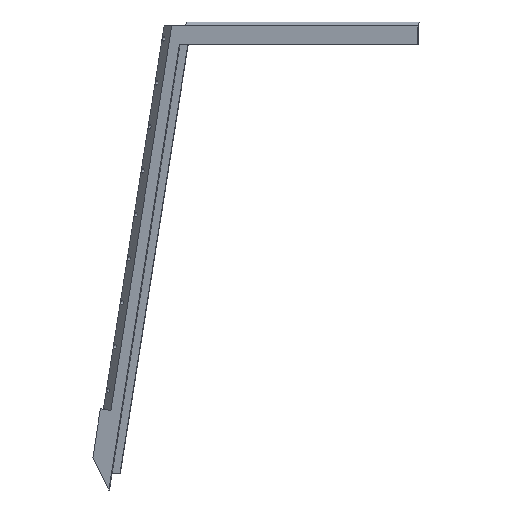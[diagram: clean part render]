
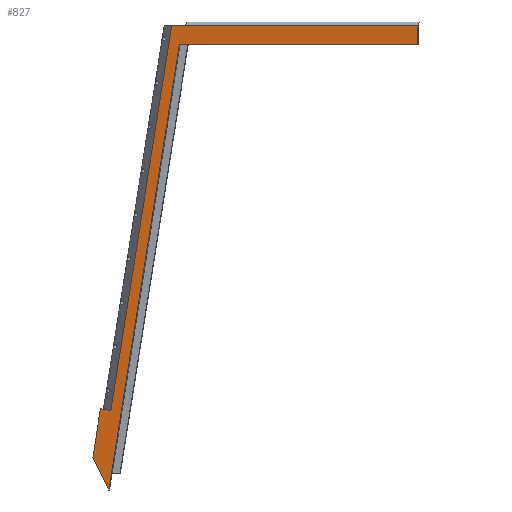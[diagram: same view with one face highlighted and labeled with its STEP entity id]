
A CAD part, left-side view. The second image highlights one B-rep face of the part: STEP entity #827.
In plain terms, the highlighted planar face has unit normal (-0.985, 0.174, 0).
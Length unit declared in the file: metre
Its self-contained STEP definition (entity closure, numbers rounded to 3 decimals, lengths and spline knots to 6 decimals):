
#59=ELLIPSE('',#887,0.002031,0.002);
#77=ORIENTED_EDGE('',*,*,#311,.T.);
#78=ORIENTED_EDGE('',*,*,#312,.T.);
#79=ORIENTED_EDGE('',*,*,#313,.T.);
#80=ORIENTED_EDGE('',*,*,#314,.F.);
#81=ORIENTED_EDGE('',*,*,#315,.T.);
#82=ORIENTED_EDGE('',*,*,#316,.F.);
#83=ORIENTED_EDGE('',*,*,#317,.F.);
#84=ORIENTED_EDGE('',*,*,#318,.T.);
#85=ORIENTED_EDGE('',*,*,#319,.F.);
#86=ORIENTED_EDGE('',*,*,#320,.F.);
#87=ORIENTED_EDGE('',*,*,#321,.T.);
#311=EDGE_CURVE('',#428,#429,#510,.T.);
#312=EDGE_CURVE('',#429,#430,#511,.T.);
#313=EDGE_CURVE('',#430,#431,#512,.T.);
#314=EDGE_CURVE('',#432,#431,#513,.T.);
#315=EDGE_CURVE('',#432,#433,#514,.F.);
#316=EDGE_CURVE('',#434,#433,#59,.F.);
#317=EDGE_CURVE('',#435,#434,#515,.T.);
#318=EDGE_CURVE('',#435,#436,#516,.T.);
#319=EDGE_CURVE('',#437,#436,#517,.T.);
#320=EDGE_CURVE('',#438,#437,#518,.T.);
#321=EDGE_CURVE('',#438,#428,#519,.T.);
#428=VERTEX_POINT('',#1213);
#429=VERTEX_POINT('',#1214);
#430=VERTEX_POINT('',#1216);
#431=VERTEX_POINT('',#1218);
#432=VERTEX_POINT('',#1220);
#433=VERTEX_POINT('',#1222);
#434=VERTEX_POINT('',#1224);
#435=VERTEX_POINT('',#1226);
#436=VERTEX_POINT('',#1228);
#437=VERTEX_POINT('',#1230);
#438=VERTEX_POINT('',#1232);
#510=LINE('',#1212,#583);
#511=LINE('',#1215,#584);
#512=LINE('',#1217,#585);
#513=LINE('',#1219,#586);
#514=LINE('',#1221,#587);
#515=LINE('',#1225,#588);
#516=LINE('',#1227,#589);
#517=LINE('',#1229,#590);
#518=LINE('',#1231,#591);
#519=LINE('',#1233,#592);
#583=VECTOR('',#973,1.);
#584=VECTOR('',#974,1.);
#585=VECTOR('',#975,1.);
#586=VECTOR('',#976,1.);
#587=VECTOR('',#977,1.);
#588=VECTOR('',#980,1.);
#589=VECTOR('',#981,1.);
#590=VECTOR('',#982,1.);
#591=VECTOR('',#983,1.);
#592=VECTOR('',#984,1.);
#656=EDGE_LOOP('',(#77,#78,#79,#80,#81,#82,#83,#84,#85,#86,#87));
#729=FACE_BOUND('',#656,.T.);
#802=PLANE('',#886);
#827=ADVANCED_FACE('',(#729),#802,.T.);
#886=AXIS2_PLACEMENT_3D('',#1211,#971,#972);
#887=AXIS2_PLACEMENT_3D('',#1223,#978,#979);
#971=DIRECTION('',(-0.985,0.174,0.));
#972=DIRECTION('',(0.174,0.985,0.));
#973=DIRECTION('',(-0.028,-0.156,0.987));
#974=DIRECTION('',(-0.174,-0.985,0.));
#975=DIRECTION('',(0.,0.,1.));
#976=DIRECTION('',(0.028,0.156,-0.987));
#977=DIRECTION('',(-0.174,-0.985,0.));
#978=DIRECTION('',(0.985,-0.174,0.));
#979=DIRECTION('',(0.174,0.985,0.));
#980=DIRECTION('',(-0.174,-0.985,0.));
#981=DIRECTION('',(0.028,0.156,-0.987));
#982=DIRECTION('',(-0.172,-0.973,-0.154));
#983=DIRECTION('',(-0.027,-0.152,0.988));
#984=DIRECTION('',(-0.078,-0.441,-0.894));
#1211=CARTESIAN_POINT('',(-0.280796,0.162525,2.058864));
#1212=CARTESIAN_POINT('',(-0.272805,0.207847,0.62152));
#1213=CARTESIAN_POINT('',(-0.268462,0.232478,0.466006));
#1214=CARTESIAN_POINT('',(-0.27684,0.184961,0.76602));
#1215=CARTESIAN_POINT('',(-0.290825,0.105649,0.76602));
#1216=CARTESIAN_POINT('',(-0.305157,0.024367,0.76602));
#1217=CARTESIAN_POINT('',(-0.305157,0.024367,0.77202));
#1218=CARTESIAN_POINT('',(-0.305157,0.024367,0.77802));
#1219=CARTESIAN_POINT('',(-0.306115,0.018935,0.812318));
#1220=CARTESIAN_POINT('',(-0.305187,0.0242,0.779074));
#1221=CARTESIAN_POINT('',(-0.280796,0.162525,0.779074));
#1222=CARTESIAN_POINT('',(-0.277418,0.181681,0.779074));
#1223=CARTESIAN_POINT('',(-0.277322,0.182227,0.780998));
#1224=CARTESIAN_POINT('',(-0.277322,0.182227,0.778998));
#1225=CARTESIAN_POINT('',(-0.276124,0.189024,0.778998));
#1226=CARTESIAN_POINT('',(-0.275933,0.190108,0.778998));
#1227=CARTESIAN_POINT('',(-0.272261,0.210931,0.647525));
#1228=CARTESIAN_POINT('',(-0.26869,0.231184,0.519655));
#1229=CARTESIAN_POINT('',(-0.26352,0.260505,0.524299));
#1230=CARTESIAN_POINT('',(-0.267449,0.238222,0.52077));
#1231=CARTESIAN_POINT('',(-0.270487,0.22099,0.632952));
#1232=CARTESIAN_POINT('',(-0.266558,0.243273,0.487885));
#1233=CARTESIAN_POINT('',(-0.267031,0.240593,0.482452));
